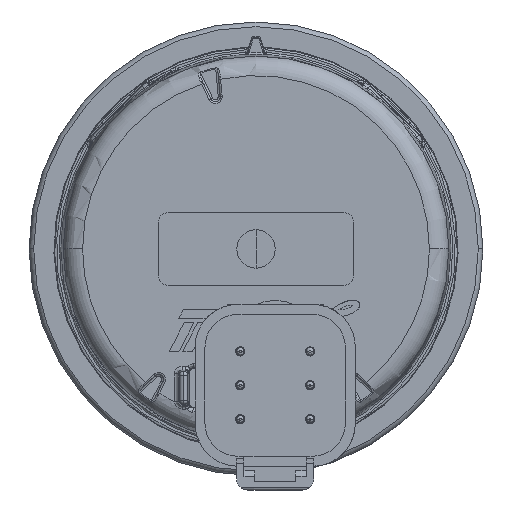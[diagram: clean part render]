
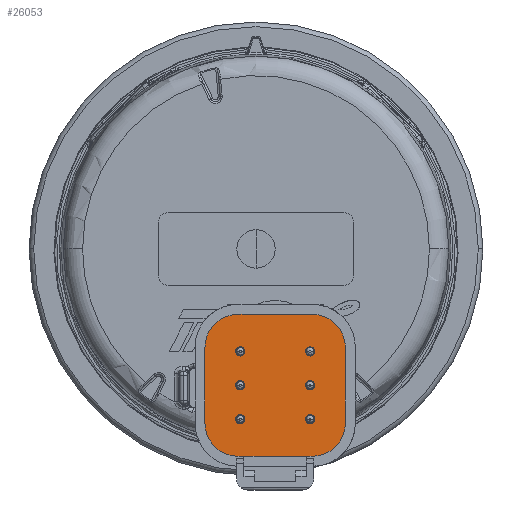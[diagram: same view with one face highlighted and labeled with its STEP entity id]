
A CAD part, front view. The second image highlights one B-rep face of the part: STEP entity #26053.
In plain terms, the highlighted planar face has unit normal (0, -1, 0) as drawn and (-1, 0, 0) by its records, which use the part's own axes.
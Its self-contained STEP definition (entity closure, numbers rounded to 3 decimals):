
#21115=CARTESIAN_POINT('',(18.,4.95,4.85));
#21116=DIRECTION('',(-1.,0.,0.));
#21117=DIRECTION('',(0.,0.,1.));
#21118=AXIS2_PLACEMENT_3D('',#21115,#21116,#21117);
#21120=DIRECTION('',(0.,1.,0.));
#21121=VECTOR('',#21120,9.9);
#21122=CARTESIAN_POINT('',(18.,-4.95,9.15));
#21123=LINE('',#21122,#21121);
#21124=CARTESIAN_POINT('',(18.,-4.95,4.85));
#21125=DIRECTION('',(-1.,0.,0.));
#21126=DIRECTION('',(0.,-1.,0.));
#21127=AXIS2_PLACEMENT_3D('',#21124,#21125,#21126);
#21129=DIRECTION('',(0.,0.,1.));
#21130=VECTOR('',#21129,9.7);
#21131=CARTESIAN_POINT('',(18.,-9.25,-4.85));
#21132=LINE('',#21131,#21130);
#21133=CARTESIAN_POINT('',(18.,-4.95,-4.85));
#21134=DIRECTION('',(-1.,0.,0.));
#21135=DIRECTION('',(0.,0.,-1.));
#21136=AXIS2_PLACEMENT_3D('',#21133,#21134,#21135);
#21138=DIRECTION('',(0.,-1.,0.));
#21139=VECTOR('',#21138,9.9);
#21140=CARTESIAN_POINT('',(18.,4.95,-9.15));
#21141=LINE('',#21140,#21139);
#21142=CARTESIAN_POINT('',(18.,4.95,-4.85));
#21143=DIRECTION('',(-1.,0.,0.));
#21144=DIRECTION('',(0.,1.,0.));
#21145=AXIS2_PLACEMENT_3D('',#21142,#21143,#21144);
#21147=DIRECTION('',(0.,0.,-1.));
#21148=VECTOR('',#21147,9.7);
#21149=CARTESIAN_POINT('',(18.,9.25,4.85));
#21150=LINE('',#21149,#21148);
#21151=CARTESIAN_POINT('',(18.,-4.42,-4.55));
#21152=DIRECTION('',(1.,0.,0.));
#21153=DIRECTION('',(0.,0.,1.));
#21154=AXIS2_PLACEMENT_3D('',#21151,#21152,#21153);
#21156=CARTESIAN_POINT('',(18.,-4.42,-4.55));
#21157=DIRECTION('',(1.,0.,0.));
#21158=DIRECTION('',(0.,0.,-1.));
#21159=AXIS2_PLACEMENT_3D('',#21156,#21157,#21158);
#21161=CARTESIAN_POINT('',(18.,-4.42,4.55));
#21162=DIRECTION('',(1.,0.,0.));
#21163=DIRECTION('',(0.,0.,1.));
#21164=AXIS2_PLACEMENT_3D('',#21161,#21162,#21163);
#21166=CARTESIAN_POINT('',(18.,-4.42,4.55));
#21167=DIRECTION('',(1.,0.,0.));
#21168=DIRECTION('',(0.,0.,-1.));
#21169=AXIS2_PLACEMENT_3D('',#21166,#21167,#21168);
#21171=CARTESIAN_POINT('',(18.,0.,4.55));
#21172=DIRECTION('',(1.,0.,0.));
#21173=DIRECTION('',(0.,0.,1.));
#21174=AXIS2_PLACEMENT_3D('',#21171,#21172,#21173);
#21176=CARTESIAN_POINT('',(18.,0.,4.55));
#21177=DIRECTION('',(1.,0.,0.));
#21178=DIRECTION('',(0.,0.,-1.));
#21179=AXIS2_PLACEMENT_3D('',#21176,#21177,#21178);
#21181=CARTESIAN_POINT('',(18.,0.,-4.55));
#21182=DIRECTION('',(1.,0.,0.));
#21183=DIRECTION('',(0.,0.,1.));
#21184=AXIS2_PLACEMENT_3D('',#21181,#21182,#21183);
#21186=CARTESIAN_POINT('',(18.,0.,-4.55));
#21187=DIRECTION('',(1.,0.,0.));
#21188=DIRECTION('',(0.,0.,-1.));
#21189=AXIS2_PLACEMENT_3D('',#21186,#21187,#21188);
#21191=CARTESIAN_POINT('',(18.,4.42,-4.55));
#21192=DIRECTION('',(1.,0.,0.));
#21193=DIRECTION('',(0.,0.,1.));
#21194=AXIS2_PLACEMENT_3D('',#21191,#21192,#21193);
#21196=CARTESIAN_POINT('',(18.,4.42,-4.55));
#21197=DIRECTION('',(1.,0.,0.));
#21198=DIRECTION('',(0.,0.,-1.));
#21199=AXIS2_PLACEMENT_3D('',#21196,#21197,#21198);
#21201=CARTESIAN_POINT('',(18.,4.42,4.55));
#21202=DIRECTION('',(1.,0.,0.));
#21203=DIRECTION('',(0.,0.,1.));
#21204=AXIS2_PLACEMENT_3D('',#21201,#21202,#21203);
#21206=CARTESIAN_POINT('',(18.,4.42,4.55));
#21207=DIRECTION('',(1.,0.,0.));
#21208=DIRECTION('',(0.,0.,-1.));
#21209=AXIS2_PLACEMENT_3D('',#21206,#21207,#21208);
#24538=CARTESIAN_POINT('',(18.,4.42,3.95));
#24540=VERTEX_POINT('',#24538);
#24542=CARTESIAN_POINT('',(18.,4.42,5.15));
#24544=VERTEX_POINT('',#24542);
#24546=CARTESIAN_POINT('',(18.,4.42,-5.15));
#24548=VERTEX_POINT('',#24546);
#24550=CARTESIAN_POINT('',(18.,4.42,-3.95));
#24552=VERTEX_POINT('',#24550);
#24554=CARTESIAN_POINT('',(18.,0.,-5.15));
#24556=VERTEX_POINT('',#24554);
#24558=CARTESIAN_POINT('',(18.,0.,-3.95));
#24560=VERTEX_POINT('',#24558);
#24562=CARTESIAN_POINT('',(18.,0.,3.95));
#24564=VERTEX_POINT('',#24562);
#24566=CARTESIAN_POINT('',(18.,0.,5.15));
#24568=VERTEX_POINT('',#24566);
#24570=CARTESIAN_POINT('',(18.,-4.42,3.95));
#24572=VERTEX_POINT('',#24570);
#24574=CARTESIAN_POINT('',(18.,-4.42,5.15));
#24576=VERTEX_POINT('',#24574);
#24578=CARTESIAN_POINT('',(18.,-4.42,-5.15));
#24580=VERTEX_POINT('',#24578);
#24582=CARTESIAN_POINT('',(18.,-4.42,-3.95));
#24584=VERTEX_POINT('',#24582);
#24645=CARTESIAN_POINT('',(18.,9.25,4.85));
#24646=VERTEX_POINT('',#24645);
#24647=CARTESIAN_POINT('',(18.,9.25,-4.85));
#24648=VERTEX_POINT('',#24647);
#24808=CARTESIAN_POINT('',(18.,4.95,9.15));
#24809=VERTEX_POINT('',#24808);
#24810=CARTESIAN_POINT('',(18.,-4.95,9.15));
#24811=VERTEX_POINT('',#24810);
#24812=CARTESIAN_POINT('',(18.,-9.25,4.85));
#24813=VERTEX_POINT('',#24812);
#24814=CARTESIAN_POINT('',(18.,-9.25,-4.85));
#24815=VERTEX_POINT('',#24814);
#24816=CARTESIAN_POINT('',(18.,-4.95,-9.15));
#24817=VERTEX_POINT('',#24816);
#24818=CARTESIAN_POINT('',(18.,4.95,-9.15));
#24819=VERTEX_POINT('',#24818);
#26002=CARTESIAN_POINT('',(18.,0.,0.));
#26003=DIRECTION('',(1.,0.,0.));
#26004=DIRECTION('',(0.,0.,1.));
#26005=AXIS2_PLACEMENT_3D('',#26002,#26003,#26004);
#26006=PLANE('',#26005);
#26007=ORIENTED_EDGE('',*,*,#25913,.F.);
#26008=ORIENTED_EDGE('',*,*,#25927,.F.);
#26009=ORIENTED_EDGE('',*,*,#25941,.F.);
#26010=ORIENTED_EDGE('',*,*,#25955,.F.);
#26011=ORIENTED_EDGE('',*,*,#25969,.F.);
#26012=ORIENTED_EDGE('',*,*,#25983,.F.);
#26013=ORIENTED_EDGE('',*,*,#25996,.F.);
#26014=ORIENTED_EDGE('',*,*,#25893,.F.);
#26015=EDGE_LOOP('',(#26007,#26008,#26009,#26010,#26011,#26012,#26013,#26014));
#26016=FACE_OUTER_BOUND('',#26015,.F.);
#26018=ORIENTED_EDGE('',*,*,#26017,.F.);
#26020=ORIENTED_EDGE('',*,*,#26019,.F.);
#26021=EDGE_LOOP('',(#26018,#26020));
#26022=FACE_BOUND('',#26021,.F.);
#26024=ORIENTED_EDGE('',*,*,#26023,.F.);
#26026=ORIENTED_EDGE('',*,*,#26025,.F.);
#26027=EDGE_LOOP('',(#26024,#26026));
#26028=FACE_BOUND('',#26027,.F.);
#26030=ORIENTED_EDGE('',*,*,#26029,.F.);
#26032=ORIENTED_EDGE('',*,*,#26031,.F.);
#26033=EDGE_LOOP('',(#26030,#26032));
#26034=FACE_BOUND('',#26033,.F.);
#26036=ORIENTED_EDGE('',*,*,#26035,.F.);
#26038=ORIENTED_EDGE('',*,*,#26037,.F.);
#26039=EDGE_LOOP('',(#26036,#26038));
#26040=FACE_BOUND('',#26039,.F.);
#26042=ORIENTED_EDGE('',*,*,#26041,.F.);
#26044=ORIENTED_EDGE('',*,*,#26043,.F.);
#26045=EDGE_LOOP('',(#26042,#26044));
#26046=FACE_BOUND('',#26045,.F.);
#26048=ORIENTED_EDGE('',*,*,#26047,.F.);
#26050=ORIENTED_EDGE('',*,*,#26049,.F.);
#26051=EDGE_LOOP('',(#26048,#26050));
#26052=FACE_BOUND('',#26051,.F.);
#26053=ADVANCED_FACE('',(#26016,#26022,#26028,#26034,#26040,#26046,#26052),
#26006,.F.);
#21119=CIRCLE('',#21118,4.3);
#21128=CIRCLE('',#21127,4.3);
#21137=CIRCLE('',#21136,4.3);
#21146=CIRCLE('',#21145,4.3);
#21155=CIRCLE('',#21154,0.6);
#21160=CIRCLE('',#21159,0.6);
#21165=CIRCLE('',#21164,0.6);
#21170=CIRCLE('',#21169,0.6);
#21175=CIRCLE('',#21174,0.6);
#21180=CIRCLE('',#21179,0.6);
#21185=CIRCLE('',#21184,0.6);
#21190=CIRCLE('',#21189,0.6);
#21195=CIRCLE('',#21194,0.6);
#21200=CIRCLE('',#21199,0.6);
#21205=CIRCLE('',#21204,0.6);
#21210=CIRCLE('',#21209,0.6);
#25893=EDGE_CURVE('',#24646,#24648,#21150,.T.);
#25913=EDGE_CURVE('',#24809,#24646,#21119,.T.);
#25927=EDGE_CURVE('',#24811,#24809,#21123,.T.);
#25941=EDGE_CURVE('',#24813,#24811,#21128,.T.);
#25955=EDGE_CURVE('',#24815,#24813,#21132,.T.);
#25969=EDGE_CURVE('',#24817,#24815,#21137,.T.);
#25983=EDGE_CURVE('',#24819,#24817,#21141,.T.);
#25996=EDGE_CURVE('',#24648,#24819,#21146,.T.);
#26017=EDGE_CURVE('',#24584,#24580,#21155,.T.);
#26019=EDGE_CURVE('',#24580,#24584,#21160,.T.);
#26023=EDGE_CURVE('',#24576,#24572,#21165,.T.);
#26025=EDGE_CURVE('',#24572,#24576,#21170,.T.);
#26029=EDGE_CURVE('',#24568,#24564,#21175,.T.);
#26031=EDGE_CURVE('',#24564,#24568,#21180,.T.);
#26035=EDGE_CURVE('',#24560,#24556,#21185,.T.);
#26037=EDGE_CURVE('',#24556,#24560,#21190,.T.);
#26041=EDGE_CURVE('',#24552,#24548,#21195,.T.);
#26043=EDGE_CURVE('',#24548,#24552,#21200,.T.);
#26047=EDGE_CURVE('',#24544,#24540,#21205,.T.);
#26049=EDGE_CURVE('',#24540,#24544,#21210,.T.);
